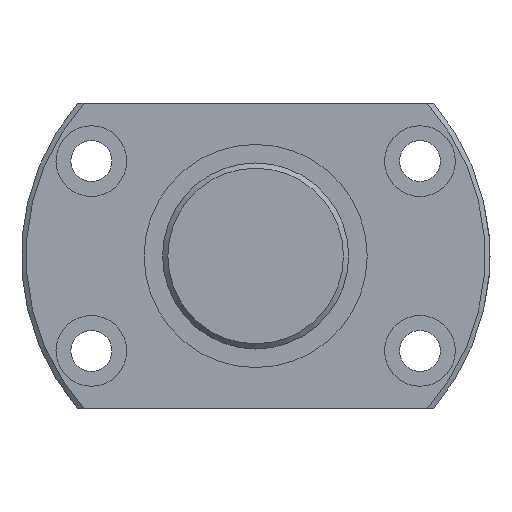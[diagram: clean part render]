
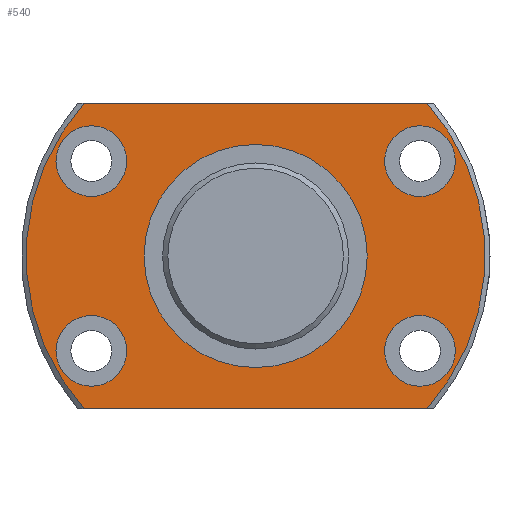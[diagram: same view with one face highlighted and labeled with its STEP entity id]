
A CAD part, left-side view. The second image highlights one B-rep face of the part: STEP entity #540.
In plain terms, the highlighted planar face has unit normal (-1, 0, 0).
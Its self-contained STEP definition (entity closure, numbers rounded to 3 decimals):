
#28=LINE('',#893,#36);
#29=LINE('',#898,#37);
#36=VECTOR('',#721,1000.);
#37=VECTOR('',#724,1000.);
#91=ORIENTED_EDGE('',*,*,#207,.T.);
#92=ORIENTED_EDGE('',*,*,#208,.T.);
#93=ORIENTED_EDGE('',*,*,#209,.T.);
#94=ORIENTED_EDGE('',*,*,#210,.T.);
#95=ORIENTED_EDGE('',*,*,#211,.T.);
#96=ORIENTED_EDGE('',*,*,#212,.F.);
#97=ORIENTED_EDGE('',*,*,#213,.T.);
#98=ORIENTED_EDGE('',*,*,#214,.F.);
#99=ORIENTED_EDGE('',*,*,#215,.T.);
#207=EDGE_CURVE('',#267,#267,#319,.T.);
#208=EDGE_CURVE('',#268,#268,#320,.T.);
#209=EDGE_CURVE('',#269,#269,#321,.T.);
#210=EDGE_CURVE('',#270,#270,#322,.T.);
#211=EDGE_CURVE('',#271,#271,#323,.T.);
#212=EDGE_CURVE('',#272,#273,#28,.T.);
#213=EDGE_CURVE('',#272,#274,#324,.F.);
#214=EDGE_CURVE('',#275,#274,#29,.T.);
#215=EDGE_CURVE('',#275,#273,#325,.F.);
#267=VERTEX_POINT('',#884);
#268=VERTEX_POINT('',#886);
#269=VERTEX_POINT('',#888);
#270=VERTEX_POINT('',#890);
#271=VERTEX_POINT('',#892);
#272=VERTEX_POINT('',#894);
#273=VERTEX_POINT('',#895);
#274=VERTEX_POINT('',#897);
#275=VERTEX_POINT('',#899);
#319=CIRCLE('',#613,15.);
#320=CIRCLE('',#614,4.75);
#321=CIRCLE('',#615,4.75);
#322=CIRCLE('',#616,4.75);
#323=CIRCLE('',#617,4.75);
#324=CIRCLE('',#618,30.85);
#325=CIRCLE('',#619,30.85);
#365=EDGE_LOOP('',(#91));
#366=EDGE_LOOP('',(#92));
#367=EDGE_LOOP('',(#93));
#368=EDGE_LOOP('',(#94));
#369=EDGE_LOOP('',(#95));
#370=EDGE_LOOP('',(#96,#97,#98,#99));
#447=FACE_BOUND('',#365,.T.);
#448=FACE_BOUND('',#366,.T.);
#449=FACE_BOUND('',#367,.T.);
#450=FACE_BOUND('',#368,.T.);
#451=FACE_BOUND('',#369,.T.);
#452=FACE_BOUND('',#370,.T.);
#523=PLANE('',#612);
#540=ADVANCED_FACE('',(#447,#448,#449,#450,#451,#452),#523,.F.);
#612=AXIS2_PLACEMENT_3D('',#882,#709,#710);
#613=AXIS2_PLACEMENT_3D('',#883,#711,#712);
#614=AXIS2_PLACEMENT_3D('',#885,#713,#714);
#615=AXIS2_PLACEMENT_3D('',#887,#715,#716);
#616=AXIS2_PLACEMENT_3D('',#889,#717,#718);
#617=AXIS2_PLACEMENT_3D('',#891,#719,#720);
#618=AXIS2_PLACEMENT_3D('',#896,#722,#723);
#619=AXIS2_PLACEMENT_3D('',#900,#725,#726);
#709=DIRECTION('',(1.,0.,0.));
#710=DIRECTION('',(0.,0.,-1.));
#711=DIRECTION('',(1.,0.,0.));
#712=DIRECTION('',(0.,0.,-1.));
#713=DIRECTION('',(1.,0.,0.));
#714=DIRECTION('',(0.,0.,-1.));
#715=DIRECTION('',(1.,0.,0.));
#716=DIRECTION('',(0.,0.,-1.));
#717=DIRECTION('',(1.,0.,0.));
#718=DIRECTION('',(0.,0.,-1.));
#719=DIRECTION('',(1.,0.,0.));
#720=DIRECTION('',(0.,0.,-1.));
#721=DIRECTION('',(0.,1.,0.));
#722=DIRECTION('',(1.,0.,0.));
#723=DIRECTION('',(0.,0.,-1.));
#724=DIRECTION('',(0.,-1.,0.));
#725=DIRECTION('',(1.,0.,0.));
#726=DIRECTION('',(0.,0.,-1.));
#882=CARTESIAN_POINT('',(0.,0.,0.));
#883=CARTESIAN_POINT('',(0.,0.,0.));
#884=CARTESIAN_POINT('',(0.,0.,-15.));
#885=CARTESIAN_POINT('',(0.,22.084,-12.75));
#886=CARTESIAN_POINT('',(0.,22.084,-17.5));
#887=CARTESIAN_POINT('',(0.,-22.084,12.75));
#888=CARTESIAN_POINT('',(0.,-22.084,8.));
#889=CARTESIAN_POINT('',(0.,-22.084,-12.75));
#890=CARTESIAN_POINT('',(0.,-22.084,-17.5));
#891=CARTESIAN_POINT('',(0.,22.084,12.75));
#892=CARTESIAN_POINT('',(0.,22.084,8.));
#893=CARTESIAN_POINT('',(0.,-23.917,-20.5));
#894=CARTESIAN_POINT('',(0.,-23.054,-20.5));
#895=CARTESIAN_POINT('',(0.,23.054,-20.5));
#896=CARTESIAN_POINT('',(0.,0.,0.));
#897=CARTESIAN_POINT('',(0.,-23.054,20.5));
#898=CARTESIAN_POINT('',(0.,23.917,20.5));
#899=CARTESIAN_POINT('',(0.,23.054,20.5));
#900=CARTESIAN_POINT('',(0.,0.,0.));
